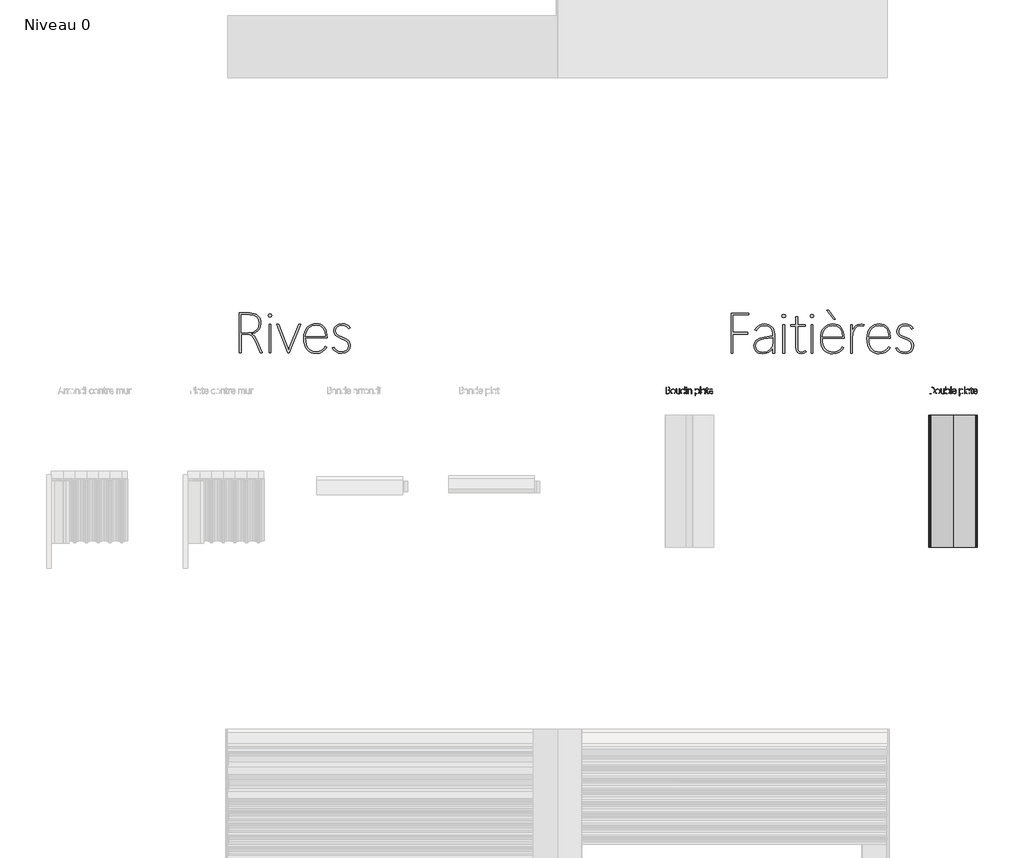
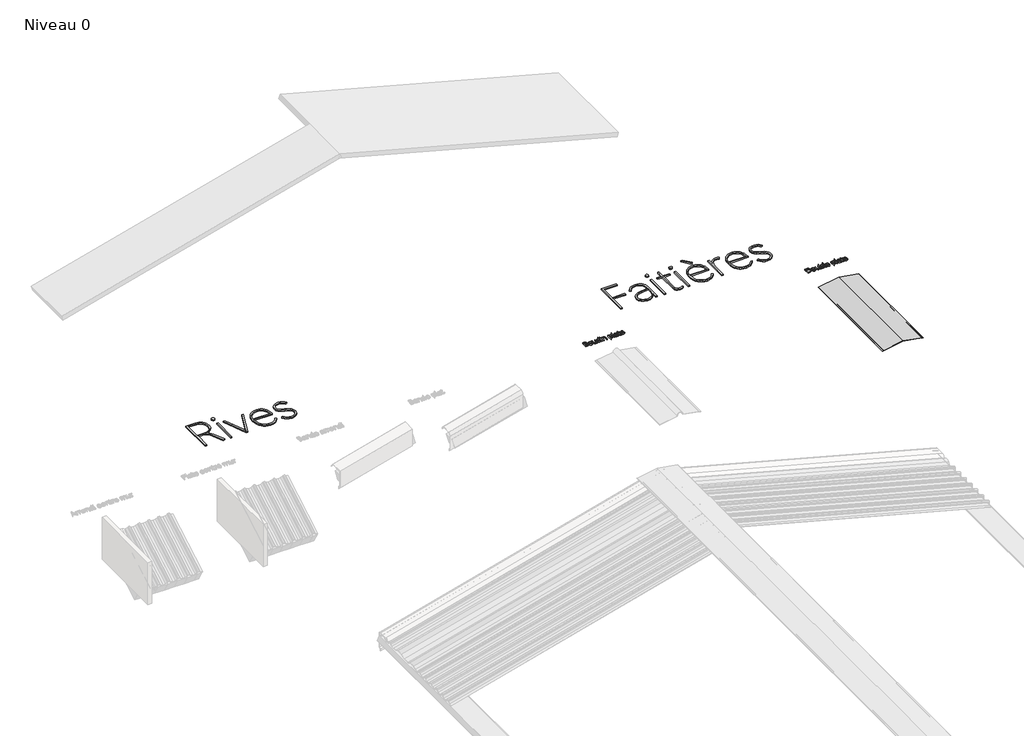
# One storey, part 22 of 26: 5 proxies.
"""IFC4 building model written with IfcOpenShell, lengths in millimetres."""

import ifcopenshell
import ifcopenshell.guid

model = None  # the IFC model being written
_history = None  # IfcOwnerHistory: only IFC2X3 demands one
_inside = {}  # id of a spatial element -> (the spatial element, [elements in it])
_under = {}  # id of a project, library or spatial element -> (it, [spatial elements below it])
_declared = {}  # id of a project -> (the project, [libraries it declares])
_typed = {}  # id of a type object -> (the type object, [elements of that type])
_made_of = {}  # id of a material, layer set ... -> (it, [elements and type objects made of it])


def new_model(schema):
    """Start an empty IFC model of exactly this schema.

    Asked for "IFC4X3", IfcOpenShell would pick the latest addendum, in which some entities
    have other attributes; the version numbers below select the first issue.
    IFC2X3 requires an IfcOwnerHistory on every rooted entity: one is made here for all.
    """
    global model, _history
    if schema == "IFC4X3":
        model = ifcopenshell.file(schema_version=(4, 3, 0, 0))
    else:
        model = ifcopenshell.file(schema=schema)
    _inside.clear()
    _under.clear()
    _declared.clear()
    _typed.clear()
    _made_of.clear()
    _history = None
    if model.schema == "IFC2X3":
        org = make("IfcOrganization", Name="unknown")
        user = make(
            "IfcPersonAndOrganization",
            ThePerson=make("IfcPerson", FamilyName="unknown"),
            TheOrganization=org,
        )
        app = make(
            "IfcApplication",
            ApplicationDeveloper=org,
            Version="unknown",
            ApplicationFullName="unknown",
            ApplicationIdentifier="unknown",
        )
        _history = make(
            "IfcOwnerHistory",
            OwningUser=user,
            OwningApplication=app,
            ChangeAction="ADDED",
            CreationDate=0,
        )
    return model


def make(cls, **values):
    """One entity of the class cls with the attributes given. An attribute that is None is left unset."""
    return model.create_entity(
        cls, **{name: value for name, value in values.items() if value is not None}
    )


def rooted(cls, **values):
    """An entity with a GlobalId (a new one), such as an element, a storey or a relation."""
    return make(cls, GlobalId=ifcopenshell.guid.new(), OwnerHistory=_history, **values)


def si_unit(unit_type, name, prefix=None):
    """IfcSIUnit, for example si_unit("LENGTHUNIT", "METRE", prefix="MILLI")."""
    return make("IfcSIUnit", UnitType=unit_type, Prefix=prefix, Name=name)


def assignment(units):
    """IfcUnitAssignment: the units of a project."""
    return None if units is None else make("IfcUnitAssignment", Units=units)


def point(xyz):
    """IfcCartesianPoint."""
    return None if xyz is None else make("IfcCartesianPoint", Coordinates=xyz)


def direction(xyz):
    """IfcDirection."""
    return None if xyz is None else make("IfcDirection", DirectionRatios=xyz)


def frame(location, z_axis=None, x_axis=None):
    """IfcAxis2Placement3D, a coordinate frame: its origin and axes. An axis left out is left unset."""
    return make(
        "IfcAxis2Placement3D",
        Location=point(location),
        Axis=direction(z_axis),
        RefDirection=direction(x_axis),
    )


def frame_2d(location, x_axis=None):
    """IfcAxis2Placement2D, a coordinate frame in the plane: its origin and x axis."""
    return make(
        "IfcAxis2Placement2D", Location=point(location), RefDirection=direction(x_axis)
    )


def origin():
    """The frame at (0, 0, 0) with its axes left unset."""
    return frame((0.0, 0.0, 0.0))


def origin_with_axes():
    """The frame at (0, 0, 0) with the z axis (0, 0, 1) and the x axis (1, 0, 0) written out."""
    return frame((0.0, 0.0, 0.0), z_axis=(0.0, 0.0, 1.0), x_axis=(1.0, 0.0, 0.0))


def place(relative_to, where):
    """IfcLocalPlacement: puts the frame where relative to a parent placement (None: the world)."""
    return make(
        "IfcLocalPlacement", PlacementRelTo=relative_to, RelativePlacement=where
    )


def context(
    kind, dimensions, precision=None, world=None, true_north=None, identifier=None
):
    """IfcGeometricRepresentationContext, for example the 3D "Model" context."""
    return make(
        "IfcGeometricRepresentationContext",
        ContextIdentifier=identifier,
        ContextType=kind,
        CoordinateSpaceDimension=dimensions,
        Precision=precision,
        WorldCoordinateSystem=world,
        TrueNorth=true_north,
    )


def project(units=None, contexts=None):
    """IfcProject with its units and contexts."""
    return rooted(
        "IfcProject",
        Name="project",
        RepresentationContexts=contexts,
        UnitsInContext=assignment(units),
    )


def spatial(cls, under=None, at=None, **own):
    """A site, building, storey or space (cls), placed at a placement, below another one or the project."""
    s = rooted(cls, ObjectPlacement=at, **own)
    if under is not None:
        _under.setdefault(under.id(), (under, []))[1].append(s)
    return s


def polyline(points):
    """IfcPolyline through the points."""
    return make("IfcPolyline", Points=[point(p) for p in points])


def circle_curve(where, radius):
    """IfcCircle in the frame where."""
    return make("IfcCircle", Position=where, Radius=radius)


def trimmed(basis, trim1, trim2, sense, master):
    """IfcTrimmedCurve: the piece of a basis curve between two trims."""
    return make(
        "IfcTrimmedCurve",
        BasisCurve=basis,
        Trim1=trim1,
        Trim2=trim2,
        SenseAgreement=sense,
        MasterRepresentation=master,
    )


def segment(curve, same_sense, transition):
    """IfcCompositeCurveSegment."""
    return make(
        "IfcCompositeCurveSegment",
        Transition=transition,
        SameSense=same_sense,
        ParentCurve=curve,
    )


def composite_curve(segments, self_intersect=None):
    """IfcCompositeCurve: segments joined end to end."""
    return make("IfcCompositeCurve", Segments=segments, SelfIntersect=self_intersect)


def outline(outer, holes=None, kind="AREA"):
    """IfcArbitraryClosedProfileDef: a profile drawn as a closed curve; with holes, ...WithVoids."""
    if holes is None:
        return make("IfcArbitraryClosedProfileDef", ProfileType=kind, OuterCurve=outer)
    return make(
        "IfcArbitraryProfileDefWithVoids",
        ProfileType=kind,
        OuterCurve=outer,
        InnerCurves=holes,
    )


def extrude(swept, where, along, depth):
    """IfcExtrudedAreaSolid: the profile swept, set in the frame where, extruded along a direction by depth."""
    return make(
        "IfcExtrudedAreaSolid",
        SweptArea=swept,
        Position=where,
        ExtrudedDirection=direction(along),
        Depth=depth,
    )


def shape(context_of_items, identifier, shape_type, items):
    """IfcShapeRepresentation: the items that make up one representation, for example the "Body"."""
    return make(
        "IfcShapeRepresentation",
        ContextOfItems=context_of_items,
        RepresentationIdentifier=identifier,
        RepresentationType=shape_type,
        Items=items,
    )


def source(mapping_origin, context_of_items, identifier, shape_type, items):
    """IfcRepresentationMap: a shape defined once, which mapped items show again and again."""
    return make(
        "IfcRepresentationMap",
        MappingOrigin=mapping_origin,
        MappedRepresentation=shape(context_of_items, identifier, shape_type, items),
    )


def transform(
    local_origin,
    x_axis=None,
    y_axis=None,
    z_axis=None,
    scale=None,
    scale2=None,
    scale3=None,
    uniform=True,
):
    """IfcCartesianTransformationOperator3D, or its non-uniform kind. x_axis, y_axis, z_axis: its Axis1, 2, 3."""
    if uniform:
        return make(
            "IfcCartesianTransformationOperator3D",
            Axis1=direction(x_axis),
            Axis2=direction(y_axis),
            LocalOrigin=point(local_origin),
            Scale=scale,
            Axis3=direction(z_axis),
        )
    return make(
        "IfcCartesianTransformationOperator3DnonUniform",
        Axis1=direction(x_axis),
        Axis2=direction(y_axis),
        LocalOrigin=point(local_origin),
        Scale=scale,
        Axis3=direction(z_axis),
        Scale2=scale2,
        Scale3=scale3,
    )


def mapped(mapping_source, mapping_target):
    """IfcMappedItem: shows the shape of a source again, moved by a transform."""
    return make(
        "IfcMappedItem", MappingSource=mapping_source, MappingTarget=mapping_target
    )


def made_of(thing, what):
    """Note that an element or type object is made of a material, layer set ...; save() writes the relation."""
    if what is not None:
        _made_of.setdefault(what.id(), (what, []))[1].append(thing)
    return thing


def element(
    cls,
    number,
    at=None,
    inside=None,
    cuts=None,
    type_object=None,
    material=None,
    context=None,
    identifier="Body",
    shape_type=None,
    held_by="IfcProductDefinitionShape",
    body=None,
    shapes=None,
    **own,
):
    """One element of the class cls, such as IfcWall. Its Tag is "e" and its number.

    at: its placement. inside: the storey or other place that contains it. cuts: it is an
    opening in that element (IfcRelVoidsElement). A single representation is given by context,
    identifier, shape_type and body (its items); several are given by shapes. held_by: the class
    of the entity that holds the representations. save() writes the other relations.
    """
    e = rooted(cls, Tag="e%d" % number, ObjectPlacement=at, **own)
    if body is not None:
        shapes = [shape(context, identifier, shape_type, body)]
    if shapes is not None:
        e.Representation = make(held_by, Representations=shapes)
    if inside is not None:
        _inside.setdefault(inside.id(), (inside, []))[1].append(e)
    if cuts is not None:
        rooted(
            "IfcRelVoidsElement", RelatingBuildingElement=cuts, RelatedOpeningElement=e
        )
    if type_object is not None:
        _typed.setdefault(type_object.id(), (type_object, []))[1].append(e)
    return made_of(e, material)


def aggregate(whole, parts):
    """IfcRelAggregates: a whole, such as a stair, and the parts it consists of."""
    return rooted("IfcRelAggregates", RelatingObject=whole, RelatedObjects=parts)


def save(model, path):
    """Write the relations noted so far, then the file.

    IfcRelAggregates (storeys below a building ...), IfcRelContainedInSpatialStructure (elements
    in a storey), IfcRelDefinesByType, IfcRelAssociatesMaterial and IfcRelDeclares: one each for
    every whole, place, type object, material and project.
    """
    for whole, parts in _under.values():
        aggregate(whole, parts)
    for where, things in _inside.values():
        rooted(
            "IfcRelContainedInSpatialStructure",
            RelatedElements=things,
            RelatingStructure=where,
        )
    for kind, things in _typed.values():
        rooted("IfcRelDefinesByType", RelatedObjects=things, RelatingType=kind)
    for what, things in _made_of.values():
        rooted("IfcRelAssociatesMaterial", RelatedObjects=things, RelatingMaterial=what)
    for by, libraries in _declared.values():
        rooted("IfcRelDeclares", RelatingContext=by, RelatedDefinitions=libraries)
    model.write(path)


def generic_models_a14e3ee3(model_context):
    return source(origin(), model_context, "Body", "SweptSolid", [
        extrude(outline(composite_curve([segment(polyline([(-183.1742421, -31.2831344), (0.0, 1.0154266), (183.1742421, -31.2831344)]), True, "CONTINUOUS"), segment(trimmed(circle_curve(frame_2d((183.0005939, -32.2679422)), 1.0), [point((183.1742421, -31.2831344))], [point((182.8269457, -33.2527499))], False, "CARTESIAN"), True, "CONTINUOUS"), segment(polyline([(182.8269457, -33.2527499), (170.0244449, -30.9953236)]), True, "CONTINUOUS"), segment(trimmed(circle_curve(frame_2d((170.111269, -30.5029198)), 0.5), [point((170.0244449, -30.9953236))], [point((170.1980931, -30.0105159))], False, "CARTESIAN"), True, "CONTINUOUS"), segment(polyline([(170.1980931, -30.0105159), (0.0, 0.0), (-170.1980931, -30.0105159)]), True, "CONTINUOUS"), segment(trimmed(circle_curve(frame_2d((-170.111269, -30.5029198)), 0.5), [point((-170.1980931, -30.0105159))], [point((-170.0244449, -30.9953236))], False, "CARTESIAN"), True, "CONTINUOUS"), segment(polyline([(-170.0244449, -30.9953236), (-182.8269457, -33.2527499)]), True, "CONTINUOUS"), segment(trimmed(circle_curve(frame_2d((-183.0005939, -32.2679422)), 1.0), [point((-182.8269457, -33.2527499))], [point((-183.1742421, -31.2831344))], False, "CARTESIAN"), True, "CONTINUOUS")], self_intersect=False)), frame((0.0, 0.0, 0.0), z_axis=(1.0, 0.0, 0.0), x_axis=(0.0, 1.0, 0.0)), (0.0, 0.0, 1.0), 1000.0),
    ])


model = new_model("IFC4")

# Units and contexts
model_context = context("Model", 3, world=origin())
ifc_project = project(units=[si_unit("LENGTHUNIT", "METRE", prefix="MILLI")], contexts=[model_context])

# Site, building, storey
site = spatial("IfcSite", under=ifc_project)
building = spatial("IfcBuilding", under=site)
storey = spatial("IfcBuildingStorey", under=building, Name="Niveau 0", Elevation=0.0)

# Proxies
placement = place(None, origin())
generic_models_shape = generic_models_a14e3ee3(model_context)
element("IfcBuildingElementProxy", 1, Name="Faitaire a double plat : Faitaire a double plat", ObjectType="Faitaire a double plat : Faitaire a double plat", at=placement, inside=storey, context=model_context, shape_type="MappedRepresentation", body=[
    mapped(generic_models_shape, transform((38043.1822429, -8404.4337097, 0.0), x_axis=(0.0, -1.0, 0.0), y_axis=(1.0, 0.0, 0.0), z_axis=(0.0, 0.0, 1.0))),
])
element("IfcBuildingElementProxy", 2, Name="0.5mm", ObjectType="0.5mm", at=placement, inside=storey, context=model_context, shape_type="SweptSolid", body=[
    extrude(outline(polyline([(37864.535279, -8239.2596825), (37864.535279, -8189.2569805), (37875.5147476, -8189.2569805), (37886.3361447, -8190.891627), (37894.5205351, -8195.7955665), (37899.6699506, -8203.5931464), (37901.3864224, -8213.9087143), (37899.6085816, -8224.3116864), (37894.2750592, -8232.3714793), (37885.9325971, -8237.5376317), (37875.1279371, -8239.2596825), (37864.535279, -8239.2596825)]), holes=[polyline([(37866.841265, -8191.3844385), (37866.841265, -8237.1322245), (37874.8898998, -8237.1322245), (37884.9302371, -8235.5849823), (37892.5864824, -8230.9432557), (37897.4346319, -8223.6087326), (37899.0506818, -8213.9831009), (37897.4774042, -8204.3983818), (37892.7575717, -8197.2758607), (37885.2296433, -8192.857294), (37875.2320784, -8191.3844385), (37866.841265, -8191.3844385)])]), origin_with_axes(), (0.0, 0.0, 1.0), 10.0),
    extrude(outline(polyline([(37924.7884605, -8240.0928129), (37912.5667349, -8234.9303798), (37907.9175697, -8221.4812746), (37912.7229469, -8207.9131508), (37924.9223565, -8202.676331), (37937.0622568, -8207.9280281), (37941.6593514, -8221.406888), (37937.0027475, -8234.8783092), (37924.7884605, -8240.0928129)]), holes=[polyline([(37924.8628472, -8238.0397415), (37935.4555053, -8233.4054536), (37939.427752, -8221.3771333), (37935.4703826, -8209.3636903), (37924.9223565, -8204.7442797), (37914.2404344, -8209.4455156), (37910.149169, -8221.5110293), (37914.1734865, -8233.4575243), (37924.8628472, -8238.0397415)])]), origin_with_axes(), (0.0, 0.0, 1.0), 10.0),
    extrude(outline(polyline([(37975.2672371, -8239.2299278), (37973.139779, -8239.2299278), (37973.139779, -8233.1153457), (37968.1856286, -8238.3000948), (37961.282548, -8240.0928129), (37952.1478681, -8236.366042), (37948.8004692, -8226.0486145), (37948.8004692, -8203.5243388), (37950.9576818, -8203.5243388), (37950.9576818, -8225.8403319), (37953.7620583, -8234.7816065), (37961.461076, -8238.0397415), (37969.8221347, -8234.5733239), (37973.139779, -8225.7659453), (37973.139779, -8203.5243388), (37975.2672371, -8203.5243388), (37975.2672371, -8239.2299278)])), origin_with_axes(), (0.0, 0.0, 1.0), 10.0),
    extrude(outline(polyline([(37987.9724758, -8233.1897323), (37987.8683345, -8239.2596825), (37985.7111219, -8239.2596825), (37985.7111219, -8186.4005334), (37987.8683345, -8186.4005334), (37987.8683345, -8211.6771149), (37993.1721022, -8205.2054769), (38001.644741, -8202.676331), (38012.415927, -8207.3850056), (38016.2840325, -8220.186947), (38011.9621685, -8234.9006251), (38000.3950454, -8240.0928129), (37992.7034664, -8238.1587601), (37987.9724758, -8233.1897323)]), holes=[polyline([(37987.8683345, -8219.7257498), (37987.8683345, -8226.0783692), (37991.3719455, -8234.5361306), (38000.4248, -8238.0397415), (38010.310785, -8233.5244722), (38014.0524332, -8220.2167016), (38010.7273502, -8208.8355451), (38001.5405997, -8204.7442797), (37991.6546147, -8208.9768798), (37987.8683345, -8219.7257498)])]), origin_with_axes(), (0.0, 0.0, 1.0), 10.0),
    extrude(outline(polyline([(38024.7492326, -8239.2596825), (38024.7492326, -8186.4005334), (38026.9064452, -8186.4005334), (38026.9064452, -8239.2596825), (38024.7492326, -8239.2596825)])), origin_with_axes(), (0.0, 0.0, 1.0), 10.0),
    extrude(outline(polyline([(38064.9626522, -8220.4770549), (38037.6925086, -8220.7374082), (38041.2705062, -8233.7476322), (38051.1267365, -8238.0694962), (38057.8810437, -8236.3957967), (38062.6566663, -8231.3746982), (38064.546087, -8232.3863566), (38059.07123, -8238.1661988), (38051.1267365, -8240.1374449), (38039.7530186, -8235.3543837), (38035.5055413, -8220.6332669), (38039.9092306, -8207.5932882), (38051.1267365, -8202.676331), (38061.332584, -8207.176723), (38064.9626522, -8220.4770549)]), holes=[polyline([(38062.7608076, -8218.7289688), (38059.5026726, -8208.2776453), (38051.0523498, -8204.7442797), (38041.9548633, -8208.3669093), (38037.7966499, -8218.7289688), (38062.7608076, -8218.7289688)])]), origin_with_axes(), (0.0, 0.0, 1.0), 10.0),
    extrude(outline(polyline([(38092.7088704, -8233.1897323), (38092.6047291, -8255.6842534), (38090.4475164, -8255.6842534), (38090.4475164, -8203.5540934), (38092.6047291, -8203.5540934), (38092.6047291, -8211.6771149), (38097.8266715, -8205.1905996), (38106.2769942, -8202.676331), (38117.0035483, -8207.5784109), (38120.9609177, -8220.320843), (38116.6316151, -8234.9303798), (38105.0868079, -8240.0928129), (38097.4249836, -8238.1587601), (38092.7088704, -8233.1897323)]), holes=[polyline([(38092.6047291, -8219.7257498), (38092.6047291, -8226.0783692), (38096.10834, -8234.5361306), (38105.1314399, -8238.0397415), (38114.9951089, -8233.5616656), (38118.7293184, -8220.3654749), (38115.3075328, -8209.0140731), (38106.1728529, -8204.7442797), (38096.197604, -8209.1554077), (38092.6047291, -8219.7257498)])]), origin_with_axes(), (0.0, 0.0, 1.0), 10.0),
    extrude(outline(polyline([(38129.4856271, -8239.2596825), (38129.4856271, -8186.4005334), (38131.6428398, -8186.4005334), (38131.6428398, -8239.2596825), (38129.4856271, -8239.2596825)])), origin_with_axes(), (0.0, 0.0, 1.0), 10.0),
    extrude(outline(polyline([(38166.6343171, -8239.2596825), (38164.4622271, -8239.2596825), (38164.4622271, -8232.3863566), (38159.2179687, -8237.9356002), (38151.6677243, -8240.0928129), (38143.6339668, -8237.3033137), (38140.792397, -8230.1547573), (38143.89432, -8222.8871822), (38153.6315317, -8219.145534), (38164.506859, -8217.6131691), (38164.506859, -8215.5154658), (38161.7694305, -8207.4817082), (38154.3605208, -8204.7442797), (38148.1343587, -8206.4179792), (38143.6488441, -8211.364691), (38141.6701594, -8210.2488914), (38147.085507, -8204.6178224), (38154.3605208, -8202.676331), (38163.3017954, -8206.0088527), (38166.6343171, -8215.5452204), (38166.6343171, -8239.2596825)]), holes=[polyline([(38164.4622271, -8225.3493801), (38164.4622271, -8219.6662405), (38153.8993236, -8221.094464), (38145.6572835, -8224.0699298), (38143.0239963, -8230.095248), (38145.4118076, -8235.9494768), (38151.8462523, -8238.1141282), (38160.7205789, -8234.4319893), (38164.4622271, -8225.3493801)])]), origin_with_axes(), (0.0, 0.0, 1.0), 10.0),
    extrude(outline(polyline([(38191.7323707, -8237.519035), (38188.7940983, -8239.3861398), (38185.5582793, -8239.9589169), (38180.5223035, -8238.0025482), (38178.8337266, -8232.1483193), (38178.8337266, -8205.5476555), (38172.287702, -8205.5476555), (38172.287702, -8203.5540934), (38178.8337266, -8203.5540934), (38178.8337266, -8193.9582164), (38180.9909393, -8193.5862831), (38180.9909393, -8203.5540934), (38190.7207123, -8203.5540934), (38190.7207123, -8205.5476555), (38180.9909393, -8205.5476555), (38180.9909393, -8231.999546), (38182.1811256, -8236.4850607), (38185.7070525, -8237.9653549), (38188.1618118, -8237.496719), (38190.4826751, -8235.9420382), (38191.7323707, -8237.519035)])), origin_with_axes(), (0.0, 0.0, 1.0), 10.0),
    extrude(outline(polyline([(38224.9236912, -8220.4770549), (38197.6535475, -8220.7374082), (38201.2315451, -8233.7476322), (38211.0877754, -8238.0694962), (38217.8420827, -8236.3957967), (38222.6177052, -8231.3746982), (38224.507126, -8232.3863566), (38219.032269, -8238.1661988), (38211.0877754, -8240.1374449), (38199.7140576, -8235.3543837), (38195.4665802, -8220.6332669), (38199.8702695, -8207.5932882), (38211.0877754, -8202.676331), (38221.293623, -8207.176723), (38224.9236912, -8220.4770549)]), holes=[polyline([(38222.7218465, -8218.7289688), (38219.4637115, -8208.2776453), (38211.0133888, -8204.7442797), (38201.9159022, -8208.3669093), (38197.7576888, -8218.7289688), (38222.7218465, -8218.7289688)])]), origin_with_axes(), (0.0, 0.0, 1.0), 10.0),
])
element("IfcBuildingElementProxy", 3, Name="0.5mm", ObjectType="0.5mm", at=placement, inside=storey, context=model_context, shape_type="SweptSolid", body=[
    extrude(outline(polyline([(35868.3438752, -8239.2596825), (35868.3438752, -8189.2569805), (35880.7961994, -8189.2569805), (35890.1986711, -8192.4481675), (35893.7543527, -8201.0398249), (35891.2624001, -8208.4487346), (35884.6196728, -8213.0011972), (35892.4897798, -8217.0627079), (35895.6437735, -8225.6915586), (35891.6492107, -8235.4957183), (35881.0639913, -8239.2596825), (35868.3438752, -8239.2596825)]), holes=[polyline([(35870.6498611, -8191.4141931), (35870.6498611, -8212.2722081), (35878.2372988, -8212.2722081), (35887.7811052, -8209.237233), (35891.3888574, -8201.1885981), (35888.495217, -8193.9954097), (35880.3647568, -8191.4141931), (35870.6498611, -8191.4141931)]), polyline([(35870.6498611, -8214.3996661), (35870.6498611, -8237.0578378), (35880.7218127, -8237.0578378), (35889.9308792, -8234.0600561), (35893.2782782, -8225.8700866), (35889.3729794, -8217.2561132), (35878.4604587, -8214.3996661), (35870.6498611, -8214.3996661)])]), origin_with_axes(), (0.0, 0.0, 1.0), 10.0),
    extrude(outline(polyline([(35919.0755663, -8240.0928129), (35906.8538407, -8234.9303798), (35902.2046755, -8221.4812746), (35907.0100526, -8207.9131508), (35919.2094622, -8202.676331), (35931.3493625, -8207.9280281), (35935.9464571, -8221.406888), (35931.2898532, -8234.8783092), (35919.0755663, -8240.0928129)]), holes=[polyline([(35919.1499529, -8238.0397415), (35929.742611, -8233.4054536), (35933.7148578, -8221.3771333), (35929.7574883, -8209.3636903), (35919.2094622, -8204.7442797), (35908.5275402, -8209.4455156), (35904.4362748, -8221.5110293), (35908.4605922, -8233.4575243), (35919.1499529, -8238.0397415)])]), origin_with_axes(), (0.0, 0.0, 1.0), 10.0),
    extrude(outline(polyline([(35969.5543428, -8239.2299278), (35967.4268848, -8239.2299278), (35967.4268848, -8233.1153457), (35962.4727343, -8238.3000948), (35955.5696538, -8240.0928129), (35946.4349739, -8236.366042), (35943.0875749, -8226.0486145), (35943.0875749, -8203.5243388), (35945.2447876, -8203.5243388), (35945.2447876, -8225.8403319), (35948.0491641, -8234.7816065), (35955.7481817, -8238.0397415), (35964.1092405, -8234.5733239), (35967.4268848, -8225.7659453), (35967.4268848, -8203.5243388), (35969.5543428, -8203.5243388), (35969.5543428, -8239.2299278)])), origin_with_axes(), (0.0, 0.0, 1.0), 10.0),
    extrude(outline(polyline([(36005.6839357, -8231.5532262), (36000.469432, -8237.8314589), (35992.5546931, -8240.0928129), (35981.5677858, -8235.1237851), (35977.4244497, -8221.9275945), (35982.1480016, -8207.8387641), (35993.8787753, -8202.676331), (36000.9008745, -8204.4021012), (36005.6318651, -8209.3116197), (36005.7360064, -8186.4005334), (36007.8932191, -8186.4005334), (36007.8932191, -8239.2596825), (36005.7360064, -8239.2596825), (36005.6839357, -8231.5532262)]), holes=[polyline([(35979.656049, -8221.7936985), (35983.2638013, -8233.7699482), (35992.6142024, -8238.0397415), (36002.1580088, -8233.9410374), (36005.7360064, -8223.6087326), (36005.7360064, -8216.1403136), (36002.3514141, -8208.0172921), (35993.8341434, -8204.7442797), (35983.6803665, -8209.3413743), (35979.656049, -8221.7936985)])]), origin_with_axes(), (0.0, 0.0, 1.0), 10.0),
    extrude(outline(polyline([(36019.9141007, -8194.8359788), (36018.2701559, -8194.211131), (36017.6081147, -8192.5746248), (36018.2701559, -8190.93068), (36019.9141007, -8190.2983935), (36021.5952389, -8190.93068), (36022.2052093, -8192.5746248), (36021.5952389, -8194.211131), (36019.9141007, -8194.8359788)])), origin_with_axes(), (0.0, 0.0, 1.0), 10.0),
    extrude(outline(polyline([(36021.0299004, -8239.2596825), (36018.8578104, -8239.2596825), (36018.8578104, -8203.5540934), (36021.0299004, -8203.5540934), (36021.0299004, -8239.2596825)])), origin_with_axes(), (0.0, 0.0, 1.0), 10.0),
    extrude(outline(polyline([(36059.7853418, -8239.2596825), (36057.6578838, -8239.2596825), (36057.6578838, -8217.018076), (36054.9353326, -8207.9652214), (36047.3627723, -8204.7442797), (36038.7934309, -8208.19582), (36035.4757866, -8217.018076), (36035.4757866, -8239.2596825), (36033.3185739, -8239.2596825), (36033.3185739, -8203.5540934), (36035.4757866, -8203.5540934), (36035.4757866, -8209.6537982), (36040.3778664, -8204.4764878), (36047.4817909, -8202.676331), (36056.5569615, -8206.4626112), (36059.7853418, -8216.8097934), (36059.7853418, -8239.2596825)])), origin_with_axes(), (0.0, 0.0, 1.0), 10.0),
    extrude(outline(polyline([(36088.9002742, -8233.1897323), (36088.7961329, -8255.6842534), (36086.6389202, -8255.6842534), (36086.6389202, -8203.5540934), (36088.7961329, -8203.5540934), (36088.7961329, -8211.6771149), (36094.0180753, -8205.1905996), (36102.4683981, -8202.676331), (36113.1949521, -8207.5784109), (36117.1523216, -8220.320843), (36112.8230189, -8234.9303798), (36101.2782118, -8240.0928129), (36093.6163874, -8238.1587601), (36088.9002742, -8233.1897323)]), holes=[polyline([(36088.7961329, -8219.7257498), (36088.7961329, -8226.0783692), (36092.2997438, -8234.5361306), (36101.3228437, -8238.0397415), (36111.1865127, -8233.5616656), (36114.9207222, -8220.3654749), (36111.4989366, -8209.0140731), (36102.3642568, -8204.7442797), (36092.3890078, -8209.1554077), (36088.7961329, -8219.7257498)])]), origin_with_axes(), (0.0, 0.0, 1.0), 10.0),
    extrude(outline(polyline([(36125.6770309, -8239.2596825), (36125.6770309, -8186.4005334), (36127.8342436, -8186.4005334), (36127.8342436, -8239.2596825), (36125.6770309, -8239.2596825)])), origin_with_axes(), (0.0, 0.0, 1.0), 10.0),
    extrude(outline(polyline([(36162.8257209, -8239.2596825), (36160.6536309, -8239.2596825), (36160.6536309, -8232.3863566), (36155.4093725, -8237.9356002), (36147.8591281, -8240.0928129), (36139.8253706, -8237.3033137), (36136.9838008, -8230.1547573), (36140.0857239, -8222.8871822), (36149.8229355, -8219.145534), (36160.6982629, -8217.6131691), (36160.6982629, -8215.5154658), (36157.9608344, -8207.4817082), (36150.5519247, -8204.7442797), (36144.3257626, -8206.4179792), (36139.8402479, -8211.364691), (36137.8615632, -8210.2488914), (36143.2769109, -8204.6178224), (36150.5519247, -8202.676331), (36159.4931992, -8206.0088527), (36162.8257209, -8215.5452204), (36162.8257209, -8239.2596825)]), holes=[polyline([(36160.6536309, -8225.3493801), (36160.6536309, -8219.6662405), (36150.0907275, -8221.094464), (36141.8486873, -8224.0699298), (36139.2154001, -8230.095248), (36141.6032114, -8235.9494768), (36148.0376561, -8238.1141282), (36156.9119827, -8234.4319893), (36160.6536309, -8225.3493801)])]), origin_with_axes(), (0.0, 0.0, 1.0), 10.0),
    extrude(outline(polyline([(36187.9237745, -8237.519035), (36184.9855021, -8239.3861398), (36181.7496831, -8239.9589169), (36176.7137073, -8238.0025482), (36175.0251305, -8232.1483193), (36175.0251305, -8205.5476555), (36168.4791058, -8205.5476555), (36168.4791058, -8203.5540934), (36175.0251305, -8203.5540934), (36175.0251305, -8193.9582164), (36177.1823432, -8193.5862831), (36177.1823432, -8203.5540934), (36186.9121162, -8203.5540934), (36186.9121162, -8205.5476555), (36177.1823432, -8205.5476555), (36177.1823432, -8231.999546), (36178.3725295, -8236.4850607), (36181.8984564, -8237.9653549), (36184.3532156, -8237.496719), (36186.6740789, -8235.9420382), (36187.9237745, -8237.519035)])), origin_with_axes(), (0.0, 0.0, 1.0), 10.0),
    extrude(outline(polyline([(36221.115095, -8220.4770549), (36193.8449514, -8220.7374082), (36197.4229489, -8233.7476322), (36207.2791793, -8238.0694962), (36214.0334865, -8236.3957967), (36218.8091091, -8231.3746982), (36220.6985298, -8232.3863566), (36215.2236728, -8238.1661988), (36207.2791793, -8240.1374449), (36195.9054614, -8235.3543837), (36191.657984, -8220.6332669), (36196.0616734, -8207.5932882), (36207.2791793, -8202.676331), (36217.4850268, -8207.176723), (36221.115095, -8220.4770549)]), holes=[polyline([(36218.9132504, -8218.7289688), (36215.6551154, -8208.2776453), (36207.2047926, -8204.7442797), (36198.1073061, -8208.3669093), (36193.9490927, -8218.7289688), (36218.9132504, -8218.7289688)])]), origin_with_axes(), (0.0, 0.0, 1.0), 10.0),
])
element("IfcBuildingElementProxy", 4, Name="3 mm", ObjectType="3 mm", at=placement, inside=storey, context=model_context, shape_type="SweptSolid", body=[
    extrude(outline(polyline([(36494.5792567, -7642.2780058), (36372.6875168, -7642.2780058), (36372.6875168, -7774.3574429), (36486.1045351, -7774.3574429), (36486.1045351, -7787.7006215), (36372.6875168, -7787.7006215), (36372.6875168, -7932.2216711), (36358.7132419, -7932.2216711), (36358.7132419, -7629.205297), (36494.5792567, -7629.205297), (36494.5792567, -7642.2780058)])), origin_with_axes(), (0.0, 0.0, 1.0), 10.0),
    extrude(outline(polyline([(36689.2273828, -7932.2216711), (36676.0645174, -7932.2216711), (36676.0645174, -7890.5693162), (36662.3719819, -7909.2542741), (36644.2843115, -7924.1977326), (36622.5452984, -7934.0022642), (36598.5298307, -7937.2704414), (36570.6263592, -7933.0443502), (36549.8452601, -7920.3660766), (36536.9303253, -7901.0838311), (36532.6253471, -7877.0458244), (36537.3247605, -7852.5119562), (36551.4230008, -7833.0043192), (36575.5737033, -7818.8384615), (36610.4305036, -7810.3299312), (36676.3349872, -7801.0438001), (36676.3349872, -7788.3317178), (36672.187783, -7760.1126981), (36659.7461705, -7739.6471471), (36640.227264, -7727.2055346), (36614.8481776, -7723.0583304), (36594.7319834, -7725.5939852), (36577.1176353, -7733.2009493), (36562.1403681, -7745.7665272), (36549.9354167, -7763.1780229), (36537.9445872, -7756.416277), (36552.6851934, -7736.7057876), (36570.7615941, -7722.2919992), (36591.655389, -7713.4679208), (36614.8481776, -7710.5265613), (36645.38873, -7715.5753316), (36669.0323016, -7730.7216425), (36677.8676496, -7741.9066972), (36684.1786125, -7755.2667802), (36689.2273828, -7788.512031), (36689.2273828, -7932.2216711)]), holes=[polyline([(36676.0645174, -7847.9252386), (36676.0645174, -7813.4854126), (36612.0533226, -7822.1404474), (36582.5721103, -7828.9472717), (36562.1065593, -7840.1717699), (36550.1382691, -7856.0167945), (36546.148839, -7876.6851979), (36549.766373, -7896.7337746), (36560.6189752, -7912.1618249), (36577.6022271, -7922.0001652), (36599.6117101, -7925.279612), (36628.6083305, -7919.7011716), (36653.3901294, -7902.9658504), (36670.3959204, -7878.0488167), (36676.0645174, -7847.9252386)])]), origin_with_axes(), (0.0, 0.0, 1.0), 10.0),
    extrude(outline(polyline([(36757.9267214, -7663.0140266), (36747.9644157, -7659.2274489), (36743.9524465, -7649.3102215), (36747.9644157, -7639.3479159), (36757.9267214, -7635.5162598), (36768.1144186, -7639.3479159), (36771.8108397, -7649.3102215), (36768.1144186, -7659.2274489), (36757.9267214, -7663.0140266)])), origin_with_axes(), (0.0, 0.0, 1.0), 10.0),
    extrude(outline(polyline([(36764.6884673, -7932.2216711), (36751.5256019, -7932.2216711), (36751.5256019, -7715.8458014), (36764.6884673, -7715.8458014), (36764.6884673, -7932.2216711)])), origin_with_axes(), (0.0, 0.0, 1.0), 10.0),
    extrude(outline(polyline([(36927.8719357, -7921.6733475), (36910.0660048, -7932.9880023), (36890.4569416, -7936.4590319), (36872.6848194, -7933.4951333), (36859.9389283, -7924.6034374), (36852.2643467, -7909.8064834), (36849.7061528, -7889.1268104), (36849.7061528, -7727.9267875), (36810.0372433, -7727.9267875), (36810.0372433, -7715.8458014), (36849.7061528, -7715.8458014), (36849.7061528, -7657.6947865), (36862.7788616, -7655.4408712), (36862.7788616, -7715.8458014), (36921.7412861, -7715.8458014), (36921.7412861, -7727.9267875), (36862.7788616, -7727.9267875), (36862.7788616, -7888.2252443), (36864.5819938, -7904.1266168), (36869.9913906, -7915.4074629), (36878.9394343, -7922.1354001), (36891.3585077, -7924.3780458), (36906.2343487, -7921.5381126), (36920.2987803, -7912.1167466), (36927.8719357, -7921.6733475)])), origin_with_axes(), (0.0, 0.0, 1.0), 10.0),
    extrude(outline(polyline([(36971.4175795, -7663.0140266), (36961.4552738, -7659.2274489), (36957.4433045, -7649.3102215), (36961.4552738, -7639.3479159), (36971.4175795, -7635.5162598), (36981.6052767, -7639.3479159), (36985.3016978, -7649.3102215), (36981.6052767, -7659.2274489), (36971.4175795, -7663.0140266)])), origin_with_axes(), (0.0, 0.0, 1.0), 10.0),
    extrude(outline(polyline([(36978.1793254, -7932.2216711), (36965.01646, -7932.2216711), (36965.01646, -7715.8458014), (36978.1793254, -7715.8458014), (36978.1793254, -7932.2216711)])), origin_with_axes(), (0.0, 0.0, 1.0), 10.0),
    extrude(outline(polyline([(37215.5616857, -7819.9766887), (37050.3046153, -7819.9766887), (37051.4231207, -7844.7162266), (37055.4097335, -7866.1030655), (37062.2644534, -7884.1372054), (37071.9872806, -7898.8186462), (37084.0879884, -7910.2093707), (37098.0763503, -7918.3713615), (37113.9523662, -7923.3046187), (37131.7160362, -7925.0091421), (37153.4437798, -7922.4734874), (37172.6471383, -7914.8665232), (37188.8527893, -7902.1882496), (37201.5874108, -7884.4386666), (37213.0373006, -7890.5693162), (37198.522086, -7910.8658236), (37179.8596672, -7925.5951601), (37157.4557491, -7934.5544735), (37131.7160362, -7937.5409112), (37111.2138591, -7935.6279006), (37092.892345, -7930.1593386), (37076.751494, -7921.1352252), (37062.7913061, -7908.5555604), (37051.5301817, -7892.211857), (37043.4865215, -7871.8956279), (37038.6603253, -7847.606873), (37037.0515933, -7819.3455924), (37038.7194906, -7795.9471341), (37043.7231826, -7774.9772696), (37052.0626692, -7756.4359988), (37063.7379505, -7740.3233217), (37077.9939648, -7727.287239), (37094.0756506, -7717.9757514), (37111.9830077, -7712.3888588), (37131.7160362, -7710.5265613), (37150.5249595, -7712.2310848), (37167.1025066, -7717.3446551), (37181.4486775, -7725.8672724), (37193.5634723, -7737.7989366), (37203.1876907, -7752.9649692), (37210.0621324, -7771.1906919), (37215.5616857, -7816.8212073), (37215.5616857, -7819.9766887)]), holes=[polyline([(37202.2185071, -7807.8055461), (37196.8767278, -7771.0103786), (37190.8080609, -7756.4585379), (37182.474209, -7744.4705259), (37160.2055257, -7728.4113793), (37131.2652532, -7723.0583304), (37100.8035878, -7728.5466142), (37076.1344847, -7745.0114655), (37066.3947532, -7757.1685212), (37058.9483805, -7771.6865532), (37050.9357116, -7807.8055461), (37202.2185071, -7807.8055461)])]), origin_with_axes(), (0.0, 0.0, 1.0), 10.0),
    extrude(outline(polyline([(37150.6489248, -7674.8245428), (37137.125433, -7674.8245428), (37086.0066338, -7607.2070836), (37101.1529446, -7607.2070836), (37150.6489248, -7674.8245428)])), origin_with_axes(), (0.0, 0.0, 1.0), 10.0),
    extrude(outline(polyline([(37361.8858676, -7727.9267875), (37351.4277006, -7724.3656013), (37340.9695335, -7723.4189569), (37328.0461466, -7725.0107846), (37316.3229696, -7729.7862676), (37296.4772453, -7748.8881999), (37283.393267, -7779.9809616), (37279.0319408, -7822.3207606), (37279.0319408, -7932.2216711), (37266.1395453, -7932.2216711), (37266.1395453, -7715.8458014), (37279.0319408, -7715.8458014), (37279.0319408, -7763.628806), (37289.2759859, -7741.4953577), (37303.3291479, -7725.0417759), (37321.0336526, -7714.8315396), (37341.6006298, -7711.4281274), (37354.0422423, -7712.4649285), (37366.9346379, -7716.4768977), (37361.8858676, -7727.9267875)])), origin_with_axes(), (0.0, 0.0, 1.0), 10.0),
    extrude(outline(polyline([(37567.5331004, -7819.9766887), (37402.2760299, -7819.9766887), (37403.3945354, -7844.7162266), (37407.3811481, -7866.1030655), (37414.235868, -7884.1372054), (37423.9586952, -7898.8186462), (37436.059403, -7910.2093707), (37450.0477649, -7918.3713615), (37465.9237809, -7923.3046187), (37483.6874509, -7925.0091421), (37505.4151945, -7922.4734874), (37524.6185529, -7914.8665232), (37540.824204, -7902.1882496), (37553.5588255, -7884.4386666), (37565.0087152, -7890.5693162), (37550.4935007, -7910.8658236), (37531.8310819, -7925.5951601), (37509.4271637, -7934.5544735), (37483.6874509, -7937.5409112), (37463.1852738, -7935.6279006), (37444.8637597, -7930.1593386), (37428.7229087, -7921.1352252), (37414.7627207, -7908.5555604), (37403.5015964, -7892.211857), (37395.4579361, -7871.8956279), (37390.63174, -7847.606873), (37389.0230079, -7819.3455924), (37390.6909052, -7795.9471341), (37395.6945972, -7774.9772696), (37404.0340839, -7756.4359988), (37415.7093652, -7740.3233217), (37429.9653795, -7727.287239), (37446.0470652, -7717.9757514), (37463.9544224, -7712.3888588), (37483.6874509, -7710.5265613), (37502.4963741, -7712.2310848), (37519.0739212, -7717.3446551), (37533.4200922, -7725.8672724), (37545.534887, -7737.7989366), (37555.1591053, -7752.9649692), (37562.033547, -7771.1906919), (37567.5331004, -7816.8212073), (37567.5331004, -7819.9766887)]), holes=[polyline([(37554.1899218, -7807.8055461), (37548.8481425, -7771.0103786), (37542.7794755, -7756.4585379), (37534.4456237, -7744.4705259), (37512.1769404, -7728.4113793), (37483.2366678, -7723.0583304), (37452.7750024, -7728.5466142), (37428.1058994, -7745.0114655), (37418.3661678, -7757.1685212), (37410.9197951, -7771.6865532), (37402.9071262, -7807.8055461), (37554.1899218, -7807.8055461)])]), origin_with_axes(), (0.0, 0.0, 1.0), 10.0),
    extrude(outline(polyline([(37606.93154, -7895.25746), (37619.1928393, -7889.3071236), (37628.7607098, -7904.7915218), (37641.9573839, -7916.0836375), (37658.6025485, -7922.9806183), (37678.5158902, -7925.279612), (37698.2376492, -7922.0565131), (37714.6686918, -7912.3872164), (37725.7579551, -7897.1732881), (37729.4543762, -7877.3162942), (37726.5468254, -7860.2766945), (37717.8241732, -7846.8433592), (37701.2353565, -7835.3709303), (37674.7293125, -7824.2140495), (37646.7356844, -7812.2457592), (37629.1100666, -7799.6012943), (37619.7788573, -7784.9057665), (37616.6684541, -7766.7842874), (37621.2551718, -7743.6365772), (37635.0153247, -7725.7630288), (37655.6048411, -7714.3356782), (37680.6796489, -7710.5265613), (37698.9589021, -7712.6227026), (37715.7505711, -7718.9111263), (37730.2207074, -7729.0988235), (37741.5353622, -7742.8927852), (37730.2657857, -7749.203748), (37720.8669589, -7737.7087799), (37708.7183553, -7729.3692933), (37694.834237, -7724.2979839), (37680.2288658, -7722.6075474), (37660.0563238, -7725.5376373), (37643.8957511, -7734.327907), (37633.27981, -7747.9190163), (37629.7411629, -7765.251625), (37632.1979306, -7779.6654134), (37639.5682337, -7791.1716511), (37654.489153, -7801.3480787), (37679.5977696, -7811.772437), (37709.4396082, -7824.3718236), (37728.8232799, -7838.0080112), (37739.439221, -7854.6419062), (37742.977868, -7876.2344148), (37738.3009938, -7901.6698491), (37724.270371, -7920.9971729), (37703.4780023, -7933.2021243), (37678.5158902, -7937.2704414), (37654.5004226, -7934.4192385), (37634.3842285, -7925.8656299), (37618.4377776, -7912.5111817), (37606.93154, -7895.25746)])), origin_with_axes(), (0.0, 0.0, 1.0), 10.0),
])
element("IfcBuildingElementProxy", 5, Name="3 mm", ObjectType="3 mm", at=placement, inside=storey, context=model_context, shape_type="SweptSolid", body=[
    extrude(outline(polyline([(32804.4475334, -7929.2596825), (32789.0307527, -7929.2596825), (32749.2716866, -7838.6522871), (32736.8638828, -7815.7186988), (32723.8024436, -7801.0119014), (32708.2166193, -7793.0668499), (32688.23566, -7790.4184994), (32643.8786068, -7790.4184994), (32643.8786068, -7929.2596825), (32629.9043318, -7929.2596825), (32629.9043318, -7626.2433083), (32707.4390185, -7626.2433083), (32742.340897, -7631.573818), (32756.9603552, -7638.2369552), (32769.6921593, -7647.5653472), (32780.0066392, -7659.1701936), (32787.3741249, -7672.6626941), (32791.7946163, -7688.0428487), (32793.2681134, -7705.3106574), (32788.0841082, -7734.5439389), (32772.5320926, -7758.9538417), (32749.0688342, -7776.7597727), (32720.1511008, -7786.1811387), (32732.7842961, -7792.2103621), (32743.2762719, -7801.7331543), (32761.7132991, -7833.3330469), (32804.4475334, -7929.2596825)]), holes=[polyline([(32643.8786068, -7639.1357039), (32643.8786068, -7777.5261039), (32698.1528874, -7777.5261039), (32731.0938596, -7772.4886032), (32756.8899203, -7757.376101), (32773.5576241, -7734.487591), (32779.1135253, -7706.1220669), (32774.2225291, -7678.308752), (32759.5495404, -7657.0768698), (32736.379291, -7643.6209954), (32705.9965127, -7639.1357039), (32643.8786068, -7639.1357039)])]), origin_with_axes(), (0.0, 0.0, 1.0), 10.0),
    extrude(outline(polyline([(32861.7871388, -7660.052038), (32851.8248332, -7656.2654602), (32847.8128639, -7646.3482329), (32851.8248332, -7636.3859272), (32861.7871388, -7632.5542712), (32871.974836, -7636.3859272), (32875.6712571, -7646.3482329), (32871.974836, -7656.2654602), (32861.7871388, -7660.052038)])), origin_with_axes(), (0.0, 0.0, 1.0), 10.0),
    extrude(outline(polyline([(32868.5488848, -7929.2596825), (32855.3860194, -7929.2596825), (32855.3860194, -7712.8838128), (32868.5488848, -7712.8838128), (32868.5488848, -7929.2596825)])), origin_with_axes(), (0.0, 0.0, 1.0), 10.0),
    extrude(outline(polyline([(33094.3010421, -7712.8838128), (33008.742417, -7929.2596825), (32998.1940933, -7929.2596825), (32913.8976608, -7712.8838128), (32928.4128754, -7712.8838128), (32997.562997, -7891.6643751), (33000.8086351, -7899.9587835), (33003.4231768, -7907.0811558), (33007.1646763, -7899.6883136), (33010.1849228, -7892.0250016), (33080.3267672, -7712.8838128), (33094.3010421, -7712.8838128)])), origin_with_axes(), (0.0, 0.0, 1.0), 10.0),
    extrude(outline(polyline([(33296.3420104, -7817.0147001), (33131.08494, -7817.0147001), (33132.2034454, -7841.754238), (33136.1900581, -7863.1410769), (33143.0447781, -7881.1752168), (33152.7676052, -7895.8566576), (33164.868313, -7907.2473821), (33178.8566749, -7915.4093729), (33194.7326909, -7920.34263), (33212.4963609, -7922.0471535), (33234.2241045, -7919.5114988), (33253.4274629, -7911.9045346), (33269.633114, -7899.226261), (33282.3677355, -7881.4766779), (33293.8176253, -7887.6073276), (33279.3024107, -7907.9038349), (33260.6399919, -7922.6331715), (33238.2360737, -7931.5924848), (33212.4963609, -7934.5789226), (33191.9941838, -7932.665912), (33173.6726697, -7927.19735), (33157.5318187, -7918.1732366), (33143.5716308, -7905.5935717), (33132.3105064, -7889.2498683), (33124.2668461, -7868.9336392), (33119.44065, -7844.6448844), (33117.8319179, -7816.3836038), (33119.4998153, -7792.9851455), (33124.5035073, -7772.0152809), (33132.8429939, -7753.4740101), (33144.5182752, -7737.3613331), (33158.7742895, -7724.3252504), (33174.8559753, -7715.0137628), (33192.7633324, -7709.4268702), (33212.4963609, -7707.5645727), (33231.3052842, -7709.2690961), (33247.8828313, -7714.3826665), (33262.2290022, -7722.9052838), (33274.343797, -7734.8369479), (33283.9680154, -7750.0029806), (33290.8424571, -7768.2287032), (33296.3420104, -7813.8592187), (33296.3420104, -7817.0147001)]), holes=[polyline([(33282.9988318, -7804.8435574), (33277.6570525, -7768.04839), (33271.5883855, -7753.4965493), (33263.2545337, -7741.5085372), (33240.9858504, -7725.4493907), (33212.0455779, -7720.0963418), (33181.5839125, -7725.5846256), (33156.9148094, -7742.0494769), (33147.1750779, -7754.2065326), (33139.7287052, -7768.7245646), (33131.7160362, -7804.8435574), (33282.9988318, -7804.8435574)])]), origin_with_axes(), (0.0, 0.0, 1.0), 10.0),
    extrude(outline(polyline([(33335.74045, -7892.2954714), (33348.0017493, -7886.345135), (33357.5696198, -7901.8295332), (33370.7662939, -7913.1216489), (33387.4114585, -7920.0186297), (33407.3248002, -7922.3176233), (33427.0465592, -7919.0945244), (33443.4776018, -7909.4252278), (33454.5668651, -7894.2112994), (33458.2632862, -7874.3543056), (33455.3557355, -7857.3147058), (33446.6330832, -7843.8813706), (33430.0442665, -7832.4089416), (33403.5382225, -7821.2520609), (33375.5445944, -7809.2837706), (33357.9189767, -7796.6393057), (33348.5877673, -7781.9437779), (33345.4773641, -7763.8222988), (33350.0640818, -7740.6745886), (33363.8242348, -7722.8010402), (33384.4137511, -7711.3736896), (33409.4885589, -7707.5645727), (33427.7678121, -7709.6607139), (33444.5594811, -7715.9491376), (33459.0296174, -7726.1368348), (33470.3442723, -7739.9307965), (33459.0746957, -7746.2417594), (33449.6758689, -7734.7467913), (33437.5272654, -7726.4073047), (33423.6431471, -7721.3359952), (33409.0377759, -7719.6455587), (33388.8652338, -7722.5756486), (33372.7046611, -7731.3659183), (33362.08872, -7744.9570277), (33358.5500729, -7762.2896364), (33361.0068406, -7776.7034248), (33368.3771437, -7788.2096624), (33383.298063, -7798.3860901), (33408.4066796, -7808.8104484), (33438.2485183, -7821.4098349), (33457.6321899, -7835.0460226), (33468.248131, -7851.6799175), (33471.7867781, -7873.2724262), (33467.1099038, -7898.7078605), (33453.079281, -7918.0351842), (33432.2869123, -7930.2401356), (33407.3248002, -7934.3084528), (33383.3093326, -7931.4572499), (33363.1931385, -7922.9036413), (33347.2466877, -7909.5491931), (33335.74045, -7892.2954714)])), origin_with_axes(), (0.0, 0.0, 1.0), 10.0),
])

save(model, "model.ifc")
